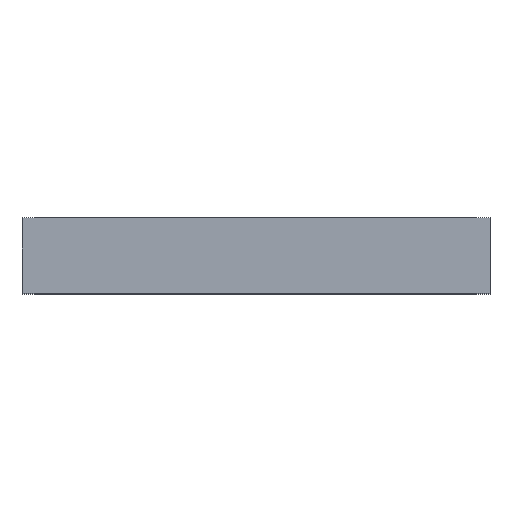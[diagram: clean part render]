
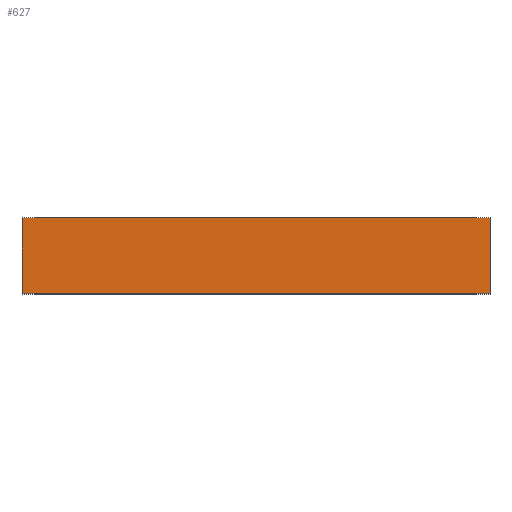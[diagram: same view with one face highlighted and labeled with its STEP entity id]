
A CAD part, top view. The second image highlights one B-rep face of the part: STEP entity #627.
In plain terms, the highlighted planar face has unit normal (0, 0, 1).
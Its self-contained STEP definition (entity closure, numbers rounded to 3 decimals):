
#5 = LINE ( 'NONE', #1263, #459 ) ;
#204 = EDGE_LOOP ( 'NONE', ( #307, #385, #389, #388 ) ) ;
#217 = FACE_OUTER_BOUND ( 'NONE', #204, .T. ) ;
#307 = ORIENTED_EDGE ( 'NONE', *, *, #799, .T. ) ;
#385 = ORIENTED_EDGE ( 'NONE', *, *, #796, .F. ) ;
#388 = ORIENTED_EDGE ( 'NONE', *, *, #803, .T. ) ;
#389 = ORIENTED_EDGE ( 'NONE', *, *, #785, .F. ) ;
#459 = VECTOR ( 'NONE', #1270, 1000. ) ;
#478 = LINE ( 'NONE', #1299, #495 ) ;
#481 = LINE ( 'NONE', #1291, #482 ) ;
#482 = VECTOR ( 'NONE', #1292, 1000. ) ;
#487 = LINE ( 'NONE', #1297, #488 ) ;
#488 = VECTOR ( 'NONE', #1298, 1000. ) ;
#495 = VECTOR ( 'NONE', #1306, 1000. ) ;
#627 = ADVANCED_FACE ( 'NONE', ( #217 ), #1043, .F. ) ;
#722 = AXIS2_PLACEMENT_3D ( 'NONE', #1046, #1052, #1053 ) ;
#785 = EDGE_CURVE ( 'NONE', #886, #889, #5, .T. ) ;
#796 = EDGE_CURVE ( 'NONE', #889, #878, #481, .T. ) ;
#799 = EDGE_CURVE ( 'NONE', #923, #878, #487, .T. ) ;
#803 = EDGE_CURVE ( 'NONE', #886, #923, #478, .T. ) ;
#878 = VERTEX_POINT ( 'NONE', #1425 ) ;
#886 = VERTEX_POINT ( 'NONE', #1433 ) ;
#889 = VERTEX_POINT ( 'NONE', #1436 ) ;
#923 = VERTEX_POINT ( 'NONE', #1470 ) ;
#1043 = PLANE ( 'NONE',  #722 ) ;
#1046 = CARTESIAN_POINT ( 'NONE',  ( -201., 65., 214.5 ) ) ;
#1052 = DIRECTION ( 'NONE',  ( 0., 0., -1. ) ) ;
#1053 = DIRECTION ( 'NONE',  ( -1., 0., 0. ) ) ;
#1263 = CARTESIAN_POINT ( 'NONE',  ( -201., 65., 214.5 ) ) ;
#1270 = DIRECTION ( 'NONE',  ( 1., 0., 0. ) ) ;
#1291 = CARTESIAN_POINT ( 'NONE',  ( 201., 65., 214.5 ) ) ;
#1292 = DIRECTION ( 'NONE',  ( 0., -1., 0. ) ) ;
#1297 = CARTESIAN_POINT ( 'NONE',  ( -201., 0., 214.5 ) ) ;
#1298 = DIRECTION ( 'NONE',  ( 1., 0., 0. ) ) ;
#1299 = CARTESIAN_POINT ( 'NONE',  ( -201., 65., 214.5 ) ) ;
#1306 = DIRECTION ( 'NONE',  ( 0., -1., 0. ) ) ;
#1425 = CARTESIAN_POINT ( 'NONE',  ( 201., 0., 214.5 ) ) ;
#1433 = CARTESIAN_POINT ( 'NONE',  ( -201., 65., 214.5 ) ) ;
#1436 = CARTESIAN_POINT ( 'NONE',  ( 201., 65., 214.5 ) ) ;
#1470 = CARTESIAN_POINT ( 'NONE',  ( -201., 0., 214.5 ) ) ;
